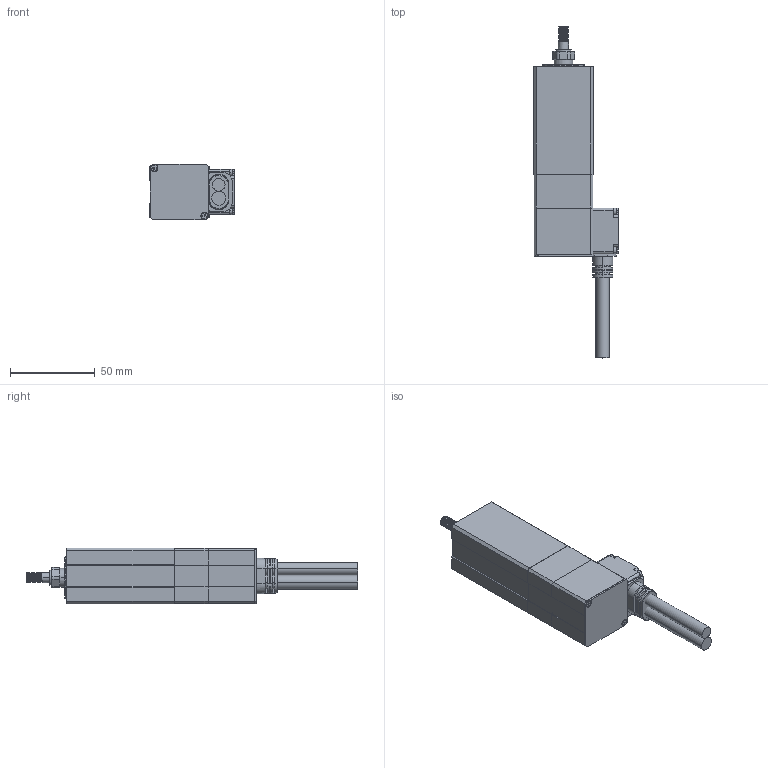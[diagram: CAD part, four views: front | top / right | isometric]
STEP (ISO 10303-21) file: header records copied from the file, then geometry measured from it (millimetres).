
FILE_DESCRIPTION (( 'STEP AP214' ), '1' );
FILE_NAME ('RCEA-3M-050-E-O-F_潠眢耀倰V1.0_20250311.STEP', '2025-03-11T06:40:30', ( '' ), ( '' ), 'SwSTEP 2.0', 'SolidWorks 2020', '' );
FILE_SCHEMA (( 'AUTOMOTIVE_DESIGN' ));
Length unit declared in the file: millimetre
Products named in the file (4): Group1^RCEA-3M-050-E-O-F_潠眢耀倰V1.0_20250311; Group4^RCEA-3M-050-E-O-F_潠眢耀倰V1.0_20250311; RCEA-3M-050-E-O-F_潠眢耀倰V1.0_20250311; Group2^RCEA-3M-050-E-O-F_潠眢耀倰V1.0_20250311
Assembly tree (3 placements, depth 2):
  RCEA-3M-050-E-O-F_潠眢耀倰V1.0_20250311
    Group1^RCEA-3M-050-E-O-F_潠眢耀倰V1.0_20250311
    Group2^RCEA-3M-050-E-O-F_潠眢耀倰V1.0_20250311
    Group4^RCEA-3M-050-E-O-F_潠眢耀倰V1.0_20250311
Bounding box: 49.85 x 196 x 33 mm (x, y, z)
Volume: 107695 mm3; surface area: 42689 mm2
Topology: 9 solids, 22 shells, 736 faces, 1861 edges, 1181 vertices
Faces by surface type: plane 312, cylinder 296, cone 114, bspline 10, torus 4
Entity records: 33656 total; most frequent: CARTESIAN_POINT 7661, DIRECTION 3722, ORIENTED_EDGE 3666, EDGE_CURVE 1835, AXIS2_PLACEMENT_3D 1320, VERTEX_POINT 1181, VECTOR 1082, LINE 1082
